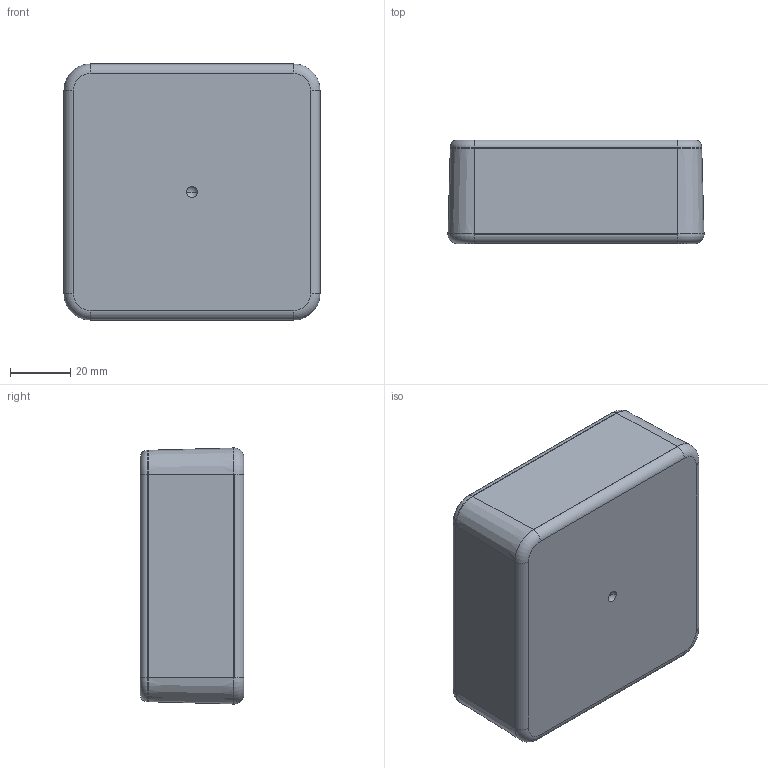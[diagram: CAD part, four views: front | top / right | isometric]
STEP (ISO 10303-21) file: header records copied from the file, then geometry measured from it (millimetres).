
FILE_DESCRIPTION (( 'STEP AP214' ), '1' );
FILE_NAME ('LP-41PMBR_ASS''Y.STEP', '2010-08-24T13:45:21', ( '' ), ( '' ), 'SwSTEP 2.0', 'SolidWorks 2010', '' );
FILE_SCHEMA (( 'AUTOMOTIVE_DESIGN' ));
Length unit declared in the file: inch
Products named in the file (4): LP-41B_LP-41BPMB; LP-41C_LP-41C-R; SCREWS-LP-BR_SCREWS-LP-BR; LP-41PMBR_ASS''Y
Assembly tree (6 placements, depth 2):
  LP-41PMBR_ASS''Y
    LP-41C_LP-41C-R
    SCREWS-LP-BR_SCREWS-LP-BR  x4
    LP-41B_LP-41BPMB
Bounding box: 85.22 x 34.47 x 85.22 mm (x, y, z)
Volume: 65062.5 mm3; surface area: 51994.8 mm2
Topology: 6 solids, 6 shells, 472 faces, 1262 edges, 822 vertices
Faces by surface type: cylinder 232, plane 132, cone 64, torus 18, bspline 16, sphere 10
Entity records: 9189 total; most frequent: CARTESIAN_POINT 2683, DIRECTION 1369, ORIENTED_EDGE 1338, EDGE_CURVE 669, AXIS2_PLACEMENT_3D 545, VERTEX_POINT 432, EDGE_LOOP 295, VECTOR 279
